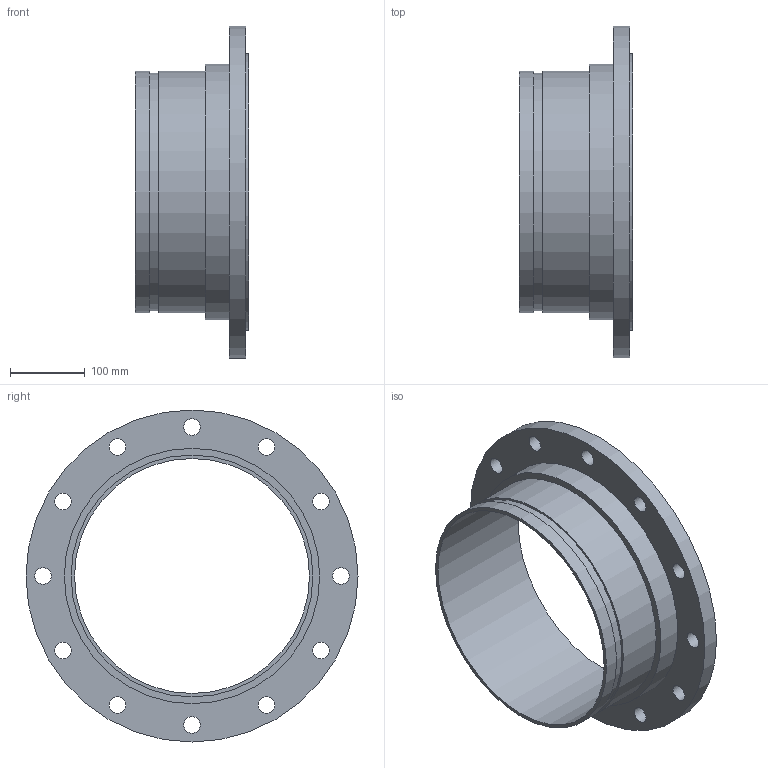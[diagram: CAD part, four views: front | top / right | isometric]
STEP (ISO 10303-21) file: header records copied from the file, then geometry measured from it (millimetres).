
FILE_DESCRIPTION(/* description */ ('VIC FLANGE ADAPTER STYLE 441N','CAx-IF Rec.Pracs.---Representation and Presentation of Product Manufacturing Information (PMI)---4.0---2014-10-13'),/* implementation_level */ '2;1');
FILE_NAME(/* name */ 'C:\Users\kkamble\AppData\Roaming\Autodesk\ApplicationPlugins\Back Up\Victaulic_SS-OGS_Flanged Adapter Nipple_PN10_Style 441N (OGSxFLG)\Victaulic_SS-OGS_Flanged Adapter Nipple_PN10_Style 441N (OGSxFLG)_12 (300).stp',/* time_stamp */ '2020-08-27T09:32:03+05:00',/* author */ ('jbrannon'),/* organization */ ('Victaulic'),/* preprocessor_version */ 'ST-DEVELOPER v17.2',/* originating_system */ 'Autodesk Inventor 2019',/* authorisation */ '');
FILE_SCHEMA (('AP242_MANAGED_MODEL_BASED_3D_ENGINEERING_MIM_LF { 1 0 10303 442 1 1 4 }'));
Length unit declared in the file: inch
Products named in the file (1): 441N-12.0
Bounding box: 151.89 x 444.5 x 444.5 mm (x, y, z)
Volume: 2556779.2 mm3; surface area: 484569.5 mm2
Topology: 1 solids, 1 shells, 26 faces, 71 edges, 52 vertices
Faces by surface type: cylinder 19, plane 7
Full cylindrical faces by diameter (mm): 22.098 x12, 314.706 x1, 318.287 x1, 323.85 x2, 341.884 x1, 370.84 x1, 444.5 x1
Entity records: 1089 total; most frequent: DIRECTION 203, CARTESIAN_POINT 167, ORIENTED_EDGE 142, AXIS2_PLACEMENT_3D 92, EDGE_CURVE 71, EDGE_LOOP 57, CIRCLE 52, VERTEX_POINT 52
